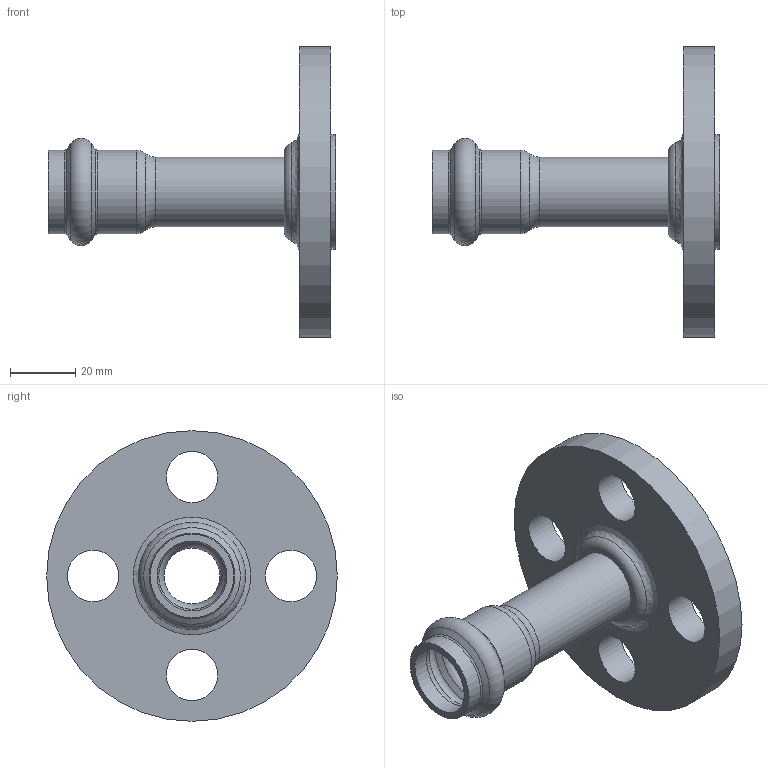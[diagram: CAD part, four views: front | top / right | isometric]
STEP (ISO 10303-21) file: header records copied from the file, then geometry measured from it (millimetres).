
FILE_DESCRIPTION(/* description */ ('VIC FLANGE ADAPTER STYLE P595','CAx-IF Rec.Pracs.---Representation and Presentation of Product Manufacturing Information (PMI)---4.0---2014-10-13'),/* implementation_level */ '2;1');
FILE_NAME(/* name */ 'C:\Users\Vjadhav\AppData\Roaming\Autodesk\ApplicationPlugins\Back Up\Victaulic_SS-Vic-Press-TP 304_Flange Adapter_CL 150 RF_Style P595 (VPxFLG)\Victaulic_SS-Vic-Press-TP 304_Flange Adapter_CL 150 RF_Style P595 (VPxFLG)_0.5 (15).stp',/* time_stamp */ '2020-08-12T17:41:58+05:00',/* author */ ('cgray'),/* organization */ ('Victaulic'),/* preprocessor_version */ 'ST-DEVELOPER v17.2',/* originating_system */ 'Autodesk Inventor 2019',/* authorisation */ '');
FILE_SCHEMA (('AP242_MANAGED_MODEL_BASED_3D_ENGINEERING_MIM_LF { 1 0 10303 442 1 1 4 }'));
Length unit declared in the file: inch
Products named in the file (1): P595-0.5
Bounding box: 87.88 x 88.9 x 88.9 mm (x, y, z)
Volume: 64368.4 mm3; surface area: 26564.7 mm2
Topology: 1 solids, 1 shells, 33 faces, 113 edges, 85 vertices
Faces by surface type: cylinder 12, torus 11, plane 5, cone 4, bspline 1
Full cylindrical faces by diameter (mm): 15.748 x4, 17.12 x1, 21.336 x3, 25.552 x2, 35.052 x1, 88.9 x1
Entity records: 1635 total; most frequent: CARTESIAN_POINT 375, DIRECTION 296, ORIENTED_EDGE 226, AXIS2_PLACEMENT_3D 140, EDGE_CURVE 113, CIRCLE 94, VERTEX_POINT 85, EDGE_LOOP 46
